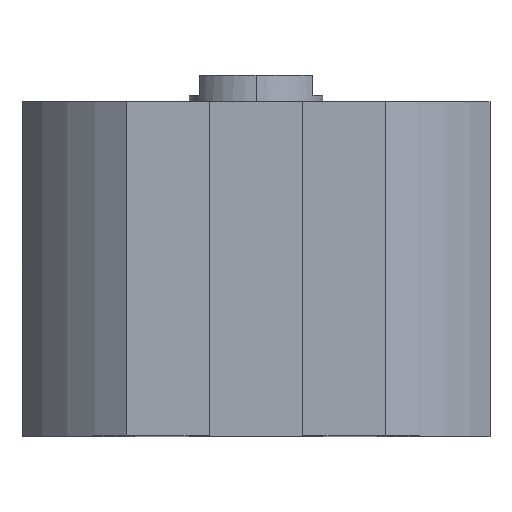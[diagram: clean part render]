
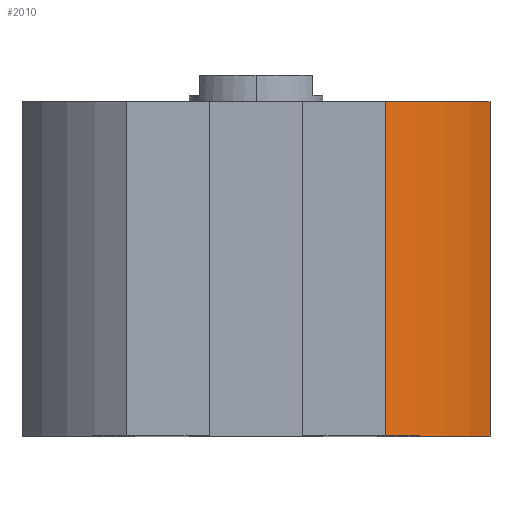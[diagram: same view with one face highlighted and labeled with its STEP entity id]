
A CAD part, top view. The second image highlights one B-rep face of the part: STEP entity #2010.
In plain terms, the highlighted cylindrical face has radius 40 mm (diameter 80 mm), a partial arc.
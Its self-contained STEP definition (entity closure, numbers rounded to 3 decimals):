
#59 = AXIS2_PLACEMENT_3D ( 'NONE', #340, #2494, #3290 ) ;
#147 = DIRECTION ( 'NONE',  ( 0., 1., 0. ) ) ;
#256 = DIRECTION ( 'NONE',  ( 0., 0., 1. ) ) ;
#310 = ORIENTED_EDGE ( 'NONE', *, *, #1128, .T. ) ;
#330 = VECTOR ( 'NONE', #842, 1000. ) ;
#340 = CARTESIAN_POINT ( 'NONE',  ( 0., 0., 0. ) ) ;
#355 = VECTOR ( 'NONE', #1045, 1000. ) ;
#391 = CARTESIAN_POINT ( 'NONE',  ( 0., -50., 0. ) ) ;
#568 = FACE_OUTER_BOUND ( 'NONE', #2422, .T. ) ;
#777 = DIRECTION ( 'NONE',  ( 0., 1., 0. ) ) ;
#842 = DIRECTION ( 'NONE',  ( 0., 1., 0. ) ) ;
#852 = ORIENTED_EDGE ( 'NONE', *, *, #1096, .F. ) ;
#1045 = DIRECTION ( 'NONE',  ( 0., 1., 0. ) ) ;
#1096 = EDGE_CURVE ( 'NONE', #1996, #1614, #2784, .T. ) ;
#1128 = EDGE_CURVE ( 'NONE', #1941, #1614, #1303, .T. ) ;
#1303 = LINE ( 'NONE', #1681, #330 ) ;
#1320 = CARTESIAN_POINT ( 'NONE',  ( 0., -50., 0. ) ) ;
#1335 = AXIS2_PLACEMENT_3D ( 'NONE', #1320, #777, #256 ) ;
#1363 = CIRCLE ( 'NONE', #1335, 40. ) ;
#1461 = AXIS2_PLACEMENT_3D ( 'NONE', #391, #147, #2269 ) ;
#1536 = ORIENTED_EDGE ( 'NONE', *, *, #2257, .T. ) ;
#1573 = LINE ( 'NONE', #2637, #355 ) ;
#1614 = VERTEX_POINT ( 'NONE', #2711 ) ;
#1681 = CARTESIAN_POINT ( 'NONE',  ( 35., -50., 19.365 ) ) ;
#1742 = ORIENTED_EDGE ( 'NONE', *, *, #3115, .F. ) ;
#1941 = VERTEX_POINT ( 'NONE', #2244 ) ;
#1996 = VERTEX_POINT ( 'NONE', #2498 ) ;
#2010 = ADVANCED_FACE ( 'NONE', ( #568 ), #3015, .T. ) ;
#2145 = CARTESIAN_POINT ( 'NONE',  ( 19.365, -50., 35. ) ) ;
#2244 = CARTESIAN_POINT ( 'NONE',  ( 35., -50., 19.365 ) ) ;
#2257 = EDGE_CURVE ( 'NONE', #2856, #1941, #1363, .T. ) ;
#2269 = DIRECTION ( 'NONE',  ( 0., 0., 1. ) ) ;
#2422 = EDGE_LOOP ( 'NONE', ( #852, #1742, #1536, #310 ) ) ;
#2494 = DIRECTION ( 'NONE',  ( 0., 1., 0. ) ) ;
#2498 = CARTESIAN_POINT ( 'NONE',  ( 19.365, 0., 35. ) ) ;
#2637 = CARTESIAN_POINT ( 'NONE',  ( 19.365, -50., 35. ) ) ;
#2711 = CARTESIAN_POINT ( 'NONE',  ( 35., 0., 19.365 ) ) ;
#2784 = CIRCLE ( 'NONE', #59, 40. ) ;
#2856 = VERTEX_POINT ( 'NONE', #2145 ) ;
#3015 = CYLINDRICAL_SURFACE ( 'NONE', #1461, 40. ) ;
#3115 = EDGE_CURVE ( 'NONE', #2856, #1996, #1573, .T. ) ;
#3290 = DIRECTION ( 'NONE',  ( 0., 0., 1. ) ) ;
